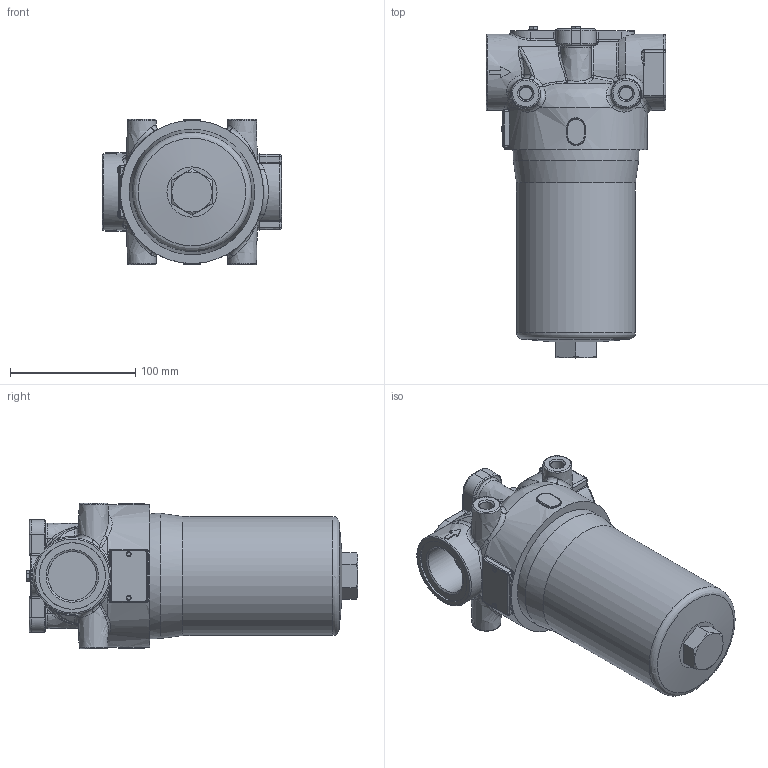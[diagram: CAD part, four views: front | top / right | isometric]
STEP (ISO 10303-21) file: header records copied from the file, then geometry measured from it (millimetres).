
FILE_DESCRIPTION((''),'2;1');
FILE_NAME('U:\Users\t.schleuter\D_162-253.stp','2013-05-13T15:19:18', ('User'),('SDRC'),'I-DEAS Master Series 9','UNIX','Yes');
FILE_SCHEMA(('AUTOMOTIVE_DESIGN { 1 0 10303 214 1 1 1 1 }'));
Length unit declared in the file: millimetre
Products named in the file (1): 13830700(241055)
Bounding box: 143 x 264.9 x 116 mm (x, y, z)
Volume: 1975264.3 mm3; surface area: 121240.9 mm2
Topology: 1 solids, 7 shells, 463 faces, 1074 edges, 638 vertices
Faces by surface type: bspline 463
Entity records: 19185 total; most frequent: CARTESIAN_POINT 13112, ORIENTED_EDGE 2104, EDGE_CURVE 1052, VERTEX_POINT 633, B_SPLINE_CURVE_WITH_KNOTS 505, EDGE_LOOP 501, FACE_OUTER_BOUND 463, ADVANCED_FACE 463
